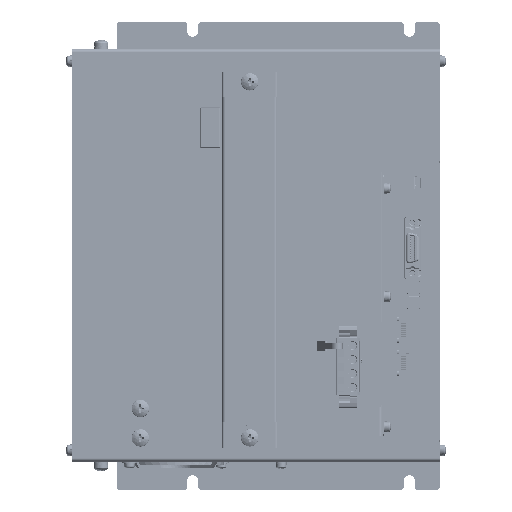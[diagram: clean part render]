
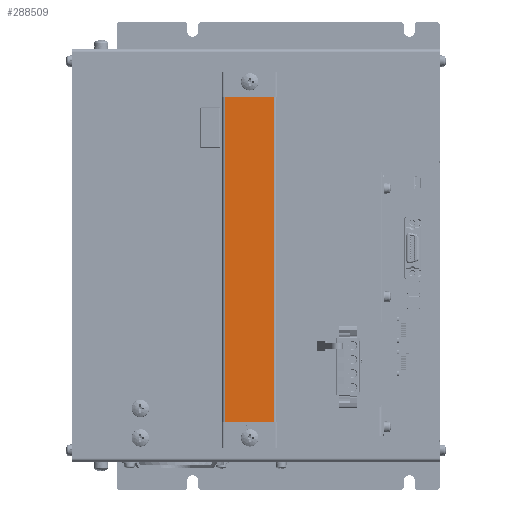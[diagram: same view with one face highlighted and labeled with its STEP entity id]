
A CAD part, top view. The second image highlights one B-rep face of the part: STEP entity #288509.
In plain terms, the highlighted planar face has unit normal (0, 0, 1).
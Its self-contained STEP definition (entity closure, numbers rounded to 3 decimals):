
#6511 = CARTESIAN_POINT ( 'NONE',  ( 110., 198.5, 26. ) ) ;
#6921 = CARTESIAN_POINT ( 'NONE',  ( 110., 21.5, 26. ) ) ;
#17717 = VERTEX_POINT ( 'NONE', #370984 ) ;
#24158 = VERTEX_POINT ( 'NONE', #6921 ) ;
#37079 = CARTESIAN_POINT ( 'NONE',  ( 110., 198.5, 26. ) ) ;
#42144 = CARTESIAN_POINT ( 'NONE',  ( 83.2, 198.5, 26. ) ) ;
#56356 = EDGE_CURVE ( 'NONE', #108745, #24158, #249338, .T. ) ;
#75507 = VECTOR ( 'NONE', #340824, 1000. ) ;
#80116 = EDGE_CURVE ( 'NONE', #24158, #322584, #140313, .T. ) ;
#80307 = ORIENTED_EDGE ( 'NONE', *, *, #476356, .T. ) ;
#89718 = VECTOR ( 'NONE', #362740, 1000. ) ;
#91343 = CARTESIAN_POINT ( 'NONE',  ( 83.2, 21.5, 26. ) ) ;
#93375 = LINE ( 'NONE', #114894, #211731 ) ;
#104544 = ORIENTED_EDGE ( 'NONE', *, *, #56356, .T. ) ;
#108745 = VERTEX_POINT ( 'NONE', #91343 ) ;
#114894 = CARTESIAN_POINT ( 'NONE',  ( 83.2, 198.5, 26. ) ) ;
#118362 = LINE ( 'NONE', #300379, #289913 ) ;
#119016 = EDGE_CURVE ( 'NONE', #322584, #17717, #118362, .T. ) ;
#133459 = EDGE_LOOP ( 'NONE', ( #298348, #445247, #80307, #104544 ) ) ;
#140313 = LINE ( 'NONE', #37079, #75507 ) ;
#155814 = DIRECTION ( 'NONE',  ( 0., 0., 1. ) ) ;
#175915 = CARTESIAN_POINT ( 'NONE',  ( 83.2, 21.5, 26. ) ) ;
#190239 = AXIS2_PLACEMENT_3D ( 'NONE', #42144, #155814, #271513 ) ;
#211731 = VECTOR ( 'NONE', #265157, 1000. ) ;
#249338 = LINE ( 'NONE', #175915, #89718 ) ;
#265157 = DIRECTION ( 'NONE',  ( 0., -1., 0. ) ) ;
#271513 = DIRECTION ( 'NONE',  ( -1., 0., 0. ) ) ;
#276863 = FACE_OUTER_BOUND ( 'NONE', #133459, .T. ) ;
#288509 = ADVANCED_FACE ( 'NONE', ( #276863 ), #418604, .T. ) ;
#289913 = VECTOR ( 'NONE', #297101, 1000. ) ;
#297101 = DIRECTION ( 'NONE',  ( -1., 0., 0. ) ) ;
#298348 = ORIENTED_EDGE ( 'NONE', *, *, #80116, .T. ) ;
#300379 = CARTESIAN_POINT ( 'NONE',  ( 83.2, 198.5, 26. ) ) ;
#322584 = VERTEX_POINT ( 'NONE', #6511 ) ;
#340824 = DIRECTION ( 'NONE',  ( 0., 1., 0. ) ) ;
#362740 = DIRECTION ( 'NONE',  ( 1., 0., 0. ) ) ;
#370984 = CARTESIAN_POINT ( 'NONE',  ( 83.2, 198.5, 26. ) ) ;
#418604 = PLANE ( 'NONE',  #190239 ) ;
#445247 = ORIENTED_EDGE ( 'NONE', *, *, #119016, .T. ) ;
#476356 = EDGE_CURVE ( 'NONE', #17717, #108745, #93375, .T. ) ;
